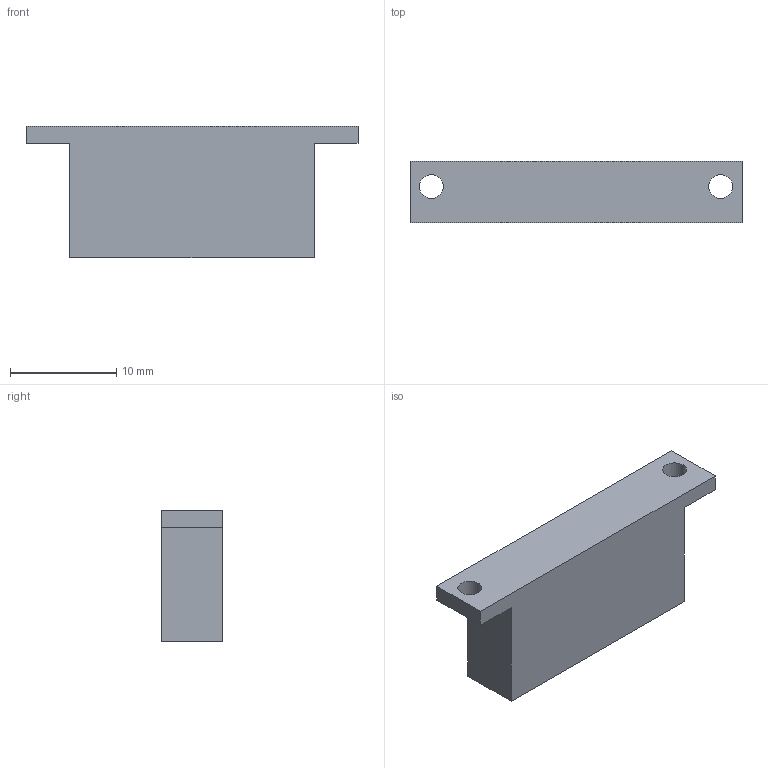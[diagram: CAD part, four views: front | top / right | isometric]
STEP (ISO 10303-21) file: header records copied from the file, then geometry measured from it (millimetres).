
FILE_DESCRIPTION(/* description */ (''),/* implementation_level */ '2;1');
FILE_NAME(/* name */ 'Z:/SMAC/Encoder Datasheets/LL/LL.step',/* time_stamp */ '2020-01-24T10:04:09-05:00',/* author */ (''),/* organization */ (''),/* preprocessor_version */ 'ST-DEVELOPER v18',/* originating_system */ 'Autodesk Translation Framework v8.12.0.6',/* authorisation */ '');
FILE_SCHEMA (('AUTOMOTIVE_DESIGN { 1 0 10303 214 3 1 1 }'));
Length unit declared in the file: millimetre
Products named in the file (1): LL
Bounding box: 31.2 x 5.8 x 12.4 mm (x, y, z)
Volume: 1692.4 mm3; surface area: 1121.7 mm2
Topology: 1 solids, 1 shells, 14 faces, 33 edges, 22 vertices
Faces by surface type: plane 11, cylinder 3
Full cylindrical faces by diameter (mm): 2.25 x2, 8 x1
Entity records: 444 total; most frequent: CARTESIAN_POINT 70, DIRECTION 69, ORIENTED_EDGE 66, EDGE_CURVE 33, LINE 27, VECTOR 27, VERTEX_POINT 22, AXIS2_PLACEMENT_3D 21
